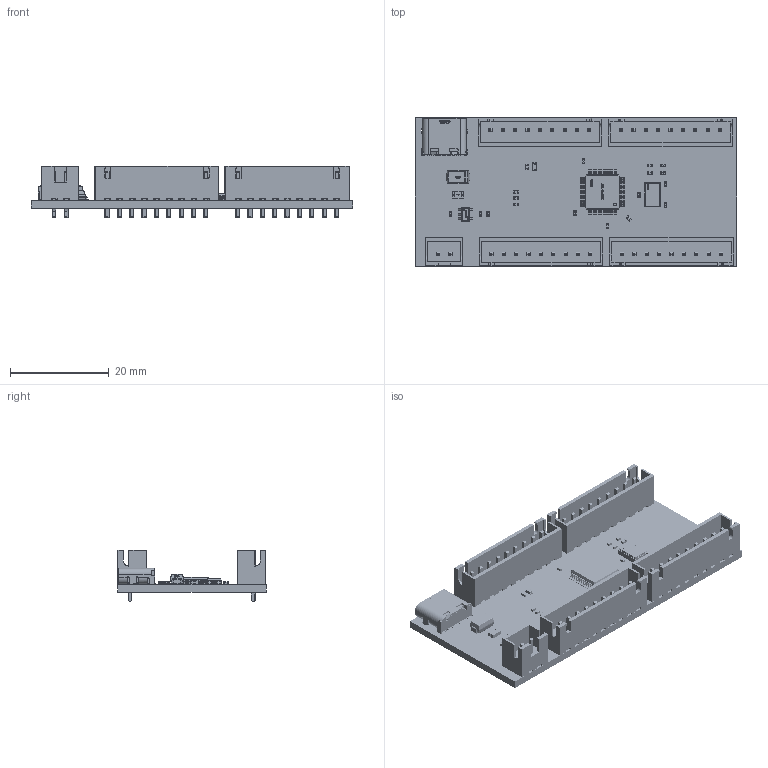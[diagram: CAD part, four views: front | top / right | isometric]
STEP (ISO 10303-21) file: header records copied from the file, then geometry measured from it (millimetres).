
FILE_DESCRIPTION(('Designed by EasyEDA Pro'),'2;1');
FILE_NAME('Open CASCADE Shape Model','2024-04-05T20:37:48',('Author'),( 'Open CASCADE'),'Open CASCADE STEP processor 7.6','Open CASCADE 7.6' ,'Unknown');
FILE_SCHEMA(('AUTOMOTIVE_DESIGN { 1 0 10303 214 1 1 1 1 }'));
Length unit declared in the file: millimetre
Products named in the file (54): PCBModel; COMPOUND; R6; R0402; SOLID; R7; R1; R3; R8; R9; R2; LED1; LED0603-RD_RED; C2; C0402_NEW; C8; C3; C6; C4; C5; C7; C17; C18; C19; C1; X1; CRYSTAL-SMD_L5.0-W3.2; D2; SMA_L4.3-W2.6-LS5.2-RD; U4; F0805; U3; SOT-23-5_L3.0-W1.7-P0.95-LS2.8-BR; CN6; CONN-TH_2P-P2.54_2501S-2P; USB1; USB-C-SMD_TYPE-C-6PIN-2MD-073; CN3; CONN-TH_9P-P2.54_2501S-9P; CN4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
Assembly tree (72 placements, depth 4):
  PCBModel
    COMPOUND
    R6
      R0402
        SOLID
    R7
      R0402
        SOLID
    R1
      R0402
        SOLID
    R3
      R0402
        SOLID
    R8
      R0402
        SOLID
    R9
      R0402
        SOLID
    R2
      R0402
        SOLID
    LED1
      LED0603-RD_RED
        COMPOUND
    C2
      C0402_NEW
        SOLID
    C8
      C0402_NEW
        SOLID
    C3
      C0402_NEW
        SOLID
    C6
      C0402_NEW
        SOLID
    C4
      C0402_NEW
        SOLID
    C5
      C0402_NEW
        SOLID
    C7
      C0402_NEW
        SOLID
    C17
      C0402_NEW
        SOLID
    C18
      C0402_NEW
        SOLID
    C19
      C0402_NEW
        SOLID
    C1
      C0402_NEW
        SOLID
    X1
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Bounding box: 64.97 x 29.97 x 10.4 mm (x, y, z)
Volume: 5615.9 mm3; surface area: 10276.3 mm2
Topology: 192 solids, 192 shells, 14110 faces, 36061 edges, 22765 vertices
Faces by surface type: plane 7742, bspline 3378, cylinder 2113, torus 436, sphere 433, cone 8
Full cylindrical faces by diameter (mm): 0.7 x2, 1 x38
Entity records: 287757 total; most frequent: CARTESIAN_POINT 65734, ORIENTED_EDGE 34902, DIRECTION 29711, EDGE_CURVE 17451, LINE 11215, VECTOR 11215, VERTEX_POINT 10781, AXIS2_PLACEMENT_3D 9248
